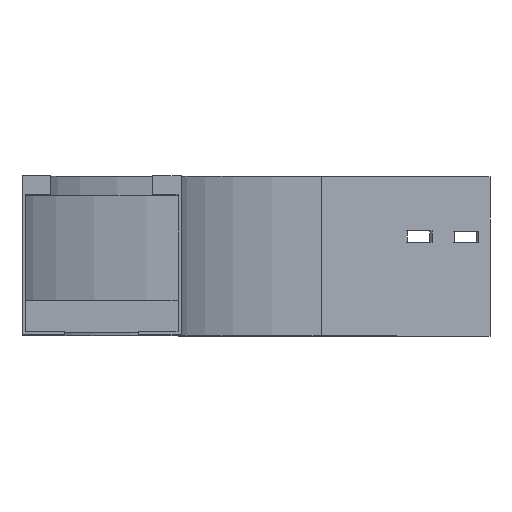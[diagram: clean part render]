
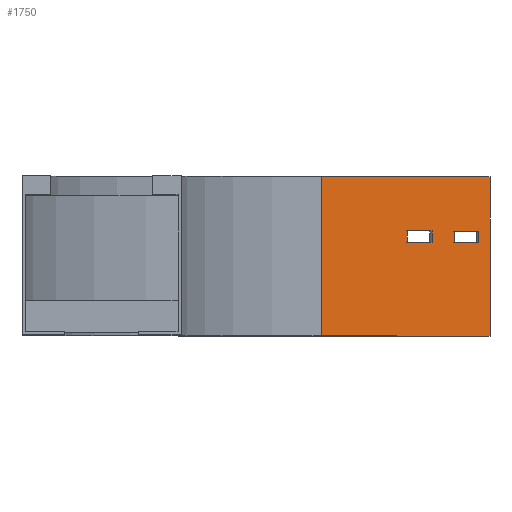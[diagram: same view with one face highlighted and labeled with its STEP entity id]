
A CAD part, top view. The second image highlights one B-rep face of the part: STEP entity #1750.
In plain terms, the highlighted planar face has unit normal (0.707, 0, 0.707).
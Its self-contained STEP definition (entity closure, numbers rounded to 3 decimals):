
#91 = VECTOR ( 'NONE', #3297, 1000. ) ;
#100 = CARTESIAN_POINT ( 'NONE',  ( 87.868, 100., -362.132 ) ) ;
#121 = LINE ( 'NONE', #643, #681 ) ;
#142 = VECTOR ( 'NONE', #2649, 1000. ) ;
#144 = ORIENTED_EDGE ( 'NONE', *, *, #2554, .F. ) ;
#191 = VERTEX_POINT ( 'NONE', #2424 ) ;
#286 = VERTEX_POINT ( 'NONE', #100 ) ;
#290 = EDGE_CURVE ( 'NONE', #3103, #191, #3403, .T. ) ;
#293 = EDGE_LOOP ( 'NONE', ( #692, #1575, #3487, #3817 ) ) ;
#304 = CARTESIAN_POINT ( 'NONE',  ( 87.868, 0., -362.132 ) ) ;
#316 = VERTEX_POINT ( 'NONE', #3645 ) ;
#536 = DIRECTION ( 'NONE',  ( 0., 1., 0. ) ) ;
#554 = ORIENTED_EDGE ( 'NONE', *, *, #3804, .F. ) ;
#599 = EDGE_CURVE ( 'NONE', #316, #3124, #3249, .T. ) ;
#619 = DIRECTION ( 'NONE',  ( -0.707, 0., 0.707 ) ) ;
#640 = PLANE ( 'NONE',  #3042 ) ;
#643 = CARTESIAN_POINT ( 'NONE',  ( 171.423, 66., -445.687 ) ) ;
#681 = VECTOR ( 'NONE', #2716, 1000. ) ;
#687 = VERTEX_POINT ( 'NONE', #1485 ) ;
#692 = ORIENTED_EDGE ( 'NONE', *, *, #1010, .F. ) ;
#832 = VECTOR ( 'NONE', #536, 1000. ) ;
#852 = LINE ( 'NONE', #3201, #832 ) ;
#874 = DIRECTION ( 'NONE',  ( 0.707, 0., -0.707 ) ) ;
#899 = LINE ( 'NONE', #1222, #950 ) ;
#911 = CARTESIAN_POINT ( 'NONE',  ( 87.868, 100., -362.132 ) ) ;
#913 = EDGE_LOOP ( 'NONE', ( #1039, #554, #1710, #1784 ) ) ;
#950 = VECTOR ( 'NONE', #619, 1000. ) ;
#1010 = EDGE_CURVE ( 'NONE', #286, #2645, #2381, .T. ) ;
#1039 = ORIENTED_EDGE ( 'NONE', *, *, #290, .F. ) ;
#1090 = CARTESIAN_POINT ( 'NONE',  ( 171.423, 59., -445.687 ) ) ;
#1222 = CARTESIAN_POINT ( 'NONE',  ( 186.98, 66., -461.244 ) ) ;
#1239 = FACE_OUTER_BOUND ( 'NONE', #293, .T. ) ;
#1242 = EDGE_CURVE ( 'NONE', #191, #316, #1375, .T. ) ;
#1254 = EDGE_LOOP ( 'NONE', ( #3159, #3718, #144, #3719 ) ) ;
#1259 = LINE ( 'NONE', #1546, #1264 ) ;
#1264 = VECTOR ( 'NONE', #3183, 1000. ) ;
#1295 = LINE ( 'NONE', #3377, #3053 ) ;
#1337 = DIRECTION ( 'NONE',  ( 0., 1., 0. ) ) ;
#1375 = LINE ( 'NONE', #2286, #1492 ) ;
#1485 = CARTESIAN_POINT ( 'NONE',  ( 87.868, 0., -362.132 ) ) ;
#1486 = DIRECTION ( 'NONE',  ( -0.707, 0., 0.707 ) ) ;
#1492 = VECTOR ( 'NONE', #2804, 1000. ) ;
#1546 = CARTESIAN_POINT ( 'NONE',  ( 157.514, 66., -431.779 ) ) ;
#1549 = CARTESIAN_POINT ( 'NONE',  ( 157.514, 66., -431.779 ) ) ;
#1558 = VECTOR ( 'NONE', #3250, 1000. ) ;
#1575 = ORIENTED_EDGE ( 'NONE', *, *, #3519, .F. ) ;
#1629 = CARTESIAN_POINT ( 'NONE',  ( 157.514, 66., -431.779 ) ) ;
#1680 = EDGE_CURVE ( 'NONE', #2535, #2224, #899, .T. ) ;
#1710 = ORIENTED_EDGE ( 'NONE', *, *, #599, .F. ) ;
#1727 = EDGE_CURVE ( 'NONE', #2514, #3283, #1811, .T. ) ;
#1750 = ADVANCED_FACE ( 'NONE', ( #1788, #1828, #1239 ), #640, .F. ) ;
#1784 = ORIENTED_EDGE ( 'NONE', *, *, #1242, .F. ) ;
#1787 = CARTESIAN_POINT ( 'NONE',  ( 157.514, 59., -431.779 ) ) ;
#1788 = FACE_BOUND ( 'NONE', #1254, .T. ) ;
#1811 = LINE ( 'NONE', #2404, #1558 ) ;
#1828 = FACE_BOUND ( 'NONE', #913, .T. ) ;
#2045 = EDGE_CURVE ( 'NONE', #3043, #2645, #852, .T. ) ;
#2082 = CARTESIAN_POINT ( 'NONE',  ( 186.98, 66., -461.244 ) ) ;
#2105 = CARTESIAN_POINT ( 'NONE',  ( 171.423, 66., -445.687 ) ) ;
#2115 = VECTOR ( 'NONE', #874, 1000. ) ;
#2224 = VERTEX_POINT ( 'NONE', #2105 ) ;
#2286 = CARTESIAN_POINT ( 'NONE',  ( 141.958, 66., -416.222 ) ) ;
#2356 = CARTESIAN_POINT ( 'NONE',  ( 193.934, 0., -468.198 ) ) ;
#2381 = LINE ( 'NONE', #911, #142 ) ;
#2404 = CARTESIAN_POINT ( 'NONE',  ( 186.98, 59., -461.244 ) ) ;
#2424 = CARTESIAN_POINT ( 'NONE',  ( 141.958, 66., -416.222 ) ) ;
#2466 = DIRECTION ( 'NONE',  ( -0.707, 0., 0.707 ) ) ;
#2473 = VECTOR ( 'NONE', #3811, 1000. ) ;
#2514 = VERTEX_POINT ( 'NONE', #1090 ) ;
#2535 = VERTEX_POINT ( 'NONE', #3442 ) ;
#2554 = EDGE_CURVE ( 'NONE', #3283, #2535, #3833, .T. ) ;
#2645 = VERTEX_POINT ( 'NONE', #3512 ) ;
#2649 = DIRECTION ( 'NONE',  ( 0.707, 0., -0.707 ) ) ;
#2716 = DIRECTION ( 'NONE',  ( 0., -1., 0. ) ) ;
#2738 = CARTESIAN_POINT ( 'NONE',  ( 157.514, 59., -431.779 ) ) ;
#2804 = DIRECTION ( 'NONE',  ( 0., -1., 0. ) ) ;
#2908 = CARTESIAN_POINT ( 'NONE',  ( 186.98, 59., -461.244 ) ) ;
#2944 = LINE ( 'NONE', #3592, #91 ) ;
#3042 = AXIS2_PLACEMENT_3D ( 'NONE', #304, #3584, #1486 ) ;
#3043 = VERTEX_POINT ( 'NONE', #2356 ) ;
#3053 = VECTOR ( 'NONE', #1337, 1000. ) ;
#3103 = VERTEX_POINT ( 'NONE', #1549 ) ;
#3107 = EDGE_CURVE ( 'NONE', #2224, #2514, #121, .T. ) ;
#3124 = VERTEX_POINT ( 'NONE', #2738 ) ;
#3159 = ORIENTED_EDGE ( 'NONE', *, *, #3107, .F. ) ;
#3183 = DIRECTION ( 'NONE',  ( 0., 1., 0. ) ) ;
#3201 = CARTESIAN_POINT ( 'NONE',  ( 193.934, 0., -468.198 ) ) ;
#3249 = LINE ( 'NONE', #1787, #2115 ) ;
#3250 = DIRECTION ( 'NONE',  ( 0.707, 0., -0.707 ) ) ;
#3283 = VERTEX_POINT ( 'NONE', #2908 ) ;
#3284 = VECTOR ( 'NONE', #2466, 1000. ) ;
#3297 = DIRECTION ( 'NONE',  ( 0.707, 0., -0.707 ) ) ;
#3377 = CARTESIAN_POINT ( 'NONE',  ( 87.868, 0., -362.132 ) ) ;
#3403 = LINE ( 'NONE', #1629, #3284 ) ;
#3442 = CARTESIAN_POINT ( 'NONE',  ( 186.98, 66., -461.244 ) ) ;
#3487 = ORIENTED_EDGE ( 'NONE', *, *, #3627, .T. ) ;
#3512 = CARTESIAN_POINT ( 'NONE',  ( 193.934, 100., -468.198 ) ) ;
#3519 = EDGE_CURVE ( 'NONE', #687, #286, #1295, .T. ) ;
#3584 = DIRECTION ( 'NONE',  ( -0.707, 0., -0.707 ) ) ;
#3592 = CARTESIAN_POINT ( 'NONE',  ( 87.868, 0., -362.132 ) ) ;
#3627 = EDGE_CURVE ( 'NONE', #687, #3043, #2944, .T. ) ;
#3645 = CARTESIAN_POINT ( 'NONE',  ( 141.958, 59., -416.222 ) ) ;
#3718 = ORIENTED_EDGE ( 'NONE', *, *, #1680, .F. ) ;
#3719 = ORIENTED_EDGE ( 'NONE', *, *, #1727, .F. ) ;
#3804 = EDGE_CURVE ( 'NONE', #3124, #3103, #1259, .T. ) ;
#3811 = DIRECTION ( 'NONE',  ( 0., 1., 0. ) ) ;
#3817 = ORIENTED_EDGE ( 'NONE', *, *, #2045, .T. ) ;
#3833 = LINE ( 'NONE', #2082, #2473 ) ;
